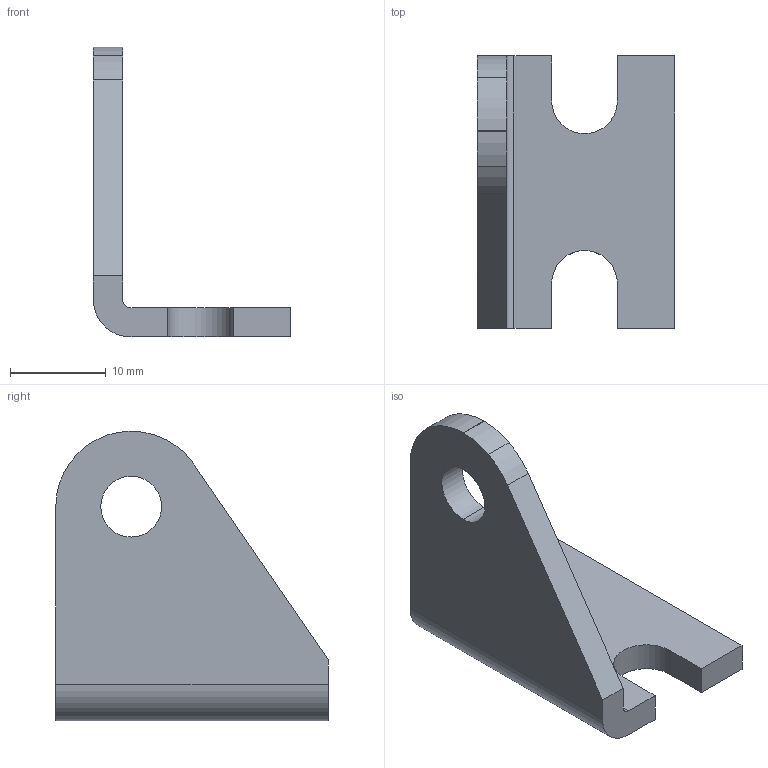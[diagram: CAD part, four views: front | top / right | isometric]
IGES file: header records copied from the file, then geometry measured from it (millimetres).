
Global section: file name: C:\Documents and Settings\Administrator\Desktop\Transfer Temp\pivotbracket0750right.igs; native system: AutoDesk Inventor R2.0 ; preprocessor: AutoDesk Inventor Iges Exporter R2.0; author: No Author specified; organization: No Organization specified; date: 20020121.195858; units: inch
Bounding box: 20.57 x 28.45 x 30.23 mm (x, y, z)
Surface area: 2525.9 mm2 (no closed solid volume)
Topology: 0 solids, 0 shells, 26 faces, 144 edges, 144 vertices
Faces by surface type: bspline 17, revolution 9
